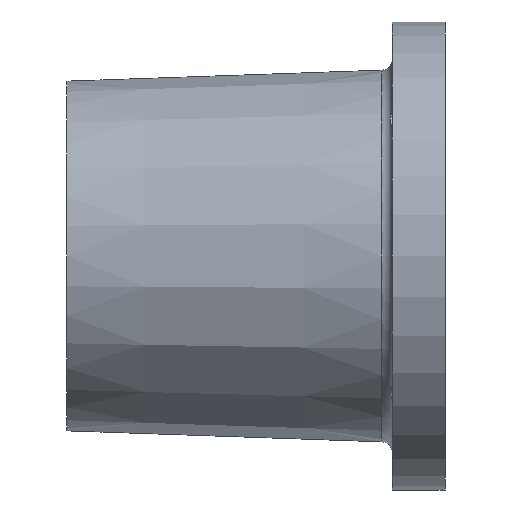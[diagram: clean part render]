
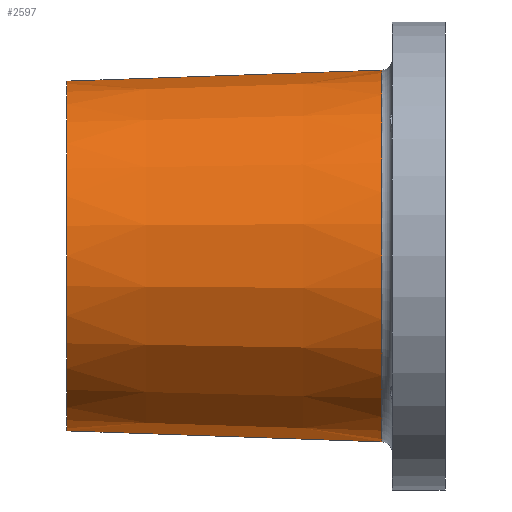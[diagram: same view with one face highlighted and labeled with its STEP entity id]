
A CAD part, left-side view. The second image highlights one B-rep face of the part: STEP entity #2597.
In plain terms, the highlighted conical face has half-angle 2 degrees and reference radius 71.141 mm.
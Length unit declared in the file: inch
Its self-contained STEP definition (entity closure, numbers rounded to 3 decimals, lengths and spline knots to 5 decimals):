
#123 = DIRECTION ( 'NONE',  ( 0., 0., 1. ) ) ;
#410 = EDGE_CURVE ( 'NONE', #5304, #743, #6976, .T. ) ;
#687 = VECTOR ( 'NONE', #6110, 39.37008 ) ;
#743 = VERTEX_POINT ( 'NONE', #2006 ) ;
#878 = EDGE_CURVE ( 'NONE', #7281, #743, #2376, .T. ) ;
#892 = EDGE_CURVE ( 'NONE', #2340, #5304, #6302, .T. ) ;
#901 = EDGE_CURVE ( 'NONE', #2340, #7281, #4973, .T. ) ;
#1457 = CONICAL_SURFACE ( 'NONE', #2836, 2.80084, 0.035 ) ;
#1791 = ORIENTED_EDGE ( 'NONE', *, *, #901, .F. ) ;
#1795 = FACE_OUTER_BOUND ( 'NONE', #6964, .T. ) ;
#2006 = CARTESIAN_POINT ( 'NONE',  ( 0., 1.01772, 2.97793 ) ) ;
#2043 = CARTESIAN_POINT ( 'NONE',  ( 0., 6.06, 2.80185 ) ) ;
#2076 = ORIENTED_EDGE ( 'NONE', *, *, #892, .T. ) ;
#2340 = VERTEX_POINT ( 'NONE', #4624 ) ;
#2376 = LINE ( 'NONE', #6539, #687 ) ;
#2475 = CARTESIAN_POINT ( 'NONE',  ( 0., 1.01772, -2.97793 ) ) ;
#2597 = ADVANCED_FACE ( 'NONE', ( #1795 ), #1457, .T. ) ;
#2836 = AXIS2_PLACEMENT_3D ( 'NONE', #3464, #6821, #6742 ) ;
#2855 = DIRECTION ( 'NONE',  ( 0., 1., 0. ) ) ;
#2952 = CARTESIAN_POINT ( 'NONE',  ( 0., 6.06, 0. ) ) ;
#3464 = CARTESIAN_POINT ( 'NONE',  ( 0., 6.089, 0. ) ) ;
#3636 = CARTESIAN_POINT ( 'NONE',  ( 0., 6.089, -2.80084 ) ) ;
#4319 = ORIENTED_EDGE ( 'NONE', *, *, #410, .T. ) ;
#4624 = CARTESIAN_POINT ( 'NONE',  ( 0., 6.06, -2.80185 ) ) ;
#4809 = CARTESIAN_POINT ( 'NONE',  ( 0., 1.01772, 0. ) ) ;
#4814 = VECTOR ( 'NONE', #6484, 39.37008 ) ;
#4973 = CIRCLE ( 'NONE', #6681, 2.80185 ) ;
#5304 = VERTEX_POINT ( 'NONE', #2475 ) ;
#5454 = DIRECTION ( 'NONE',  ( 0., 0., -1. ) ) ;
#5463 = DIRECTION ( 'NONE',  ( 0., 1., 0. ) ) ;
#6110 = DIRECTION ( 'NONE',  ( 0., -0.999, 0.035 ) ) ;
#6302 = LINE ( 'NONE', #3636, #4814 ) ;
#6484 = DIRECTION ( 'NONE',  ( 0., -0.999, -0.035 ) ) ;
#6539 = CARTESIAN_POINT ( 'NONE',  ( 0., 6.089, 2.80084 ) ) ;
#6681 = AXIS2_PLACEMENT_3D ( 'NONE', #2952, #2855, #123 ) ;
#6739 = ORIENTED_EDGE ( 'NONE', *, *, #878, .F. ) ;
#6742 = DIRECTION ( 'NONE',  ( 0., 0., -1. ) ) ;
#6821 = DIRECTION ( 'NONE',  ( 0., -1., 0. ) ) ;
#6964 = EDGE_LOOP ( 'NONE', ( #6739, #1791, #2076, #4319 ) ) ;
#6966 = AXIS2_PLACEMENT_3D ( 'NONE', #4809, #5463, #5454 ) ;
#6976 = CIRCLE ( 'NONE', #6966, 2.97793 ) ;
#7281 = VERTEX_POINT ( 'NONE', #2043 ) ;
